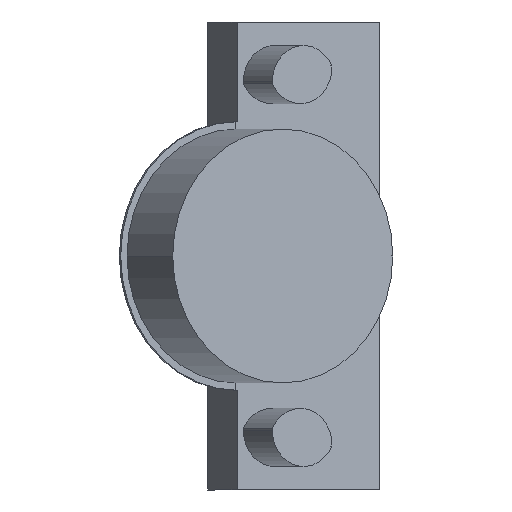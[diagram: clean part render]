
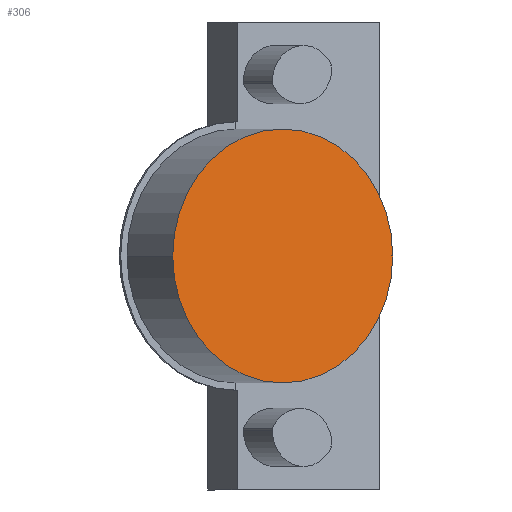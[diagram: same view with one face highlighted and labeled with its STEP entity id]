
A CAD part, front view. The second image highlights one B-rep face of the part: STEP entity #306.
In plain terms, the highlighted planar face has unit normal (0.5, -0.866, 0).
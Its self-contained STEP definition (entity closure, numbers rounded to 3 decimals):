
#98 = DIRECTION ( 'NONE',  ( 0.866, 0.5, 0. ) ) ;
#141 = AXIS2_PLACEMENT_3D ( 'NONE', #916, #165, #677 ) ;
#165 = DIRECTION ( 'NONE',  ( 0.5, -0.866, 0. ) ) ;
#306 = ADVANCED_FACE ( 'NONE', ( #1078 ), #729, .T. ) ;
#360 = DIRECTION ( 'NONE',  ( 0.866, 0.5, 0. ) ) ;
#421 = CARTESIAN_POINT ( 'NONE',  ( 27.205, -54.152, 0. ) ) ;
#570 = CIRCLE ( 'NONE', #141, 17.5 ) ;
#677 = DIRECTION ( 'NONE',  ( 0.866, 0.5, 0. ) ) ;
#729 = PLANE ( 'NONE',  #1538 ) ;
#916 = CARTESIAN_POINT ( 'NONE',  ( 12.05, -62.902, 0. ) ) ;
#920 = CARTESIAN_POINT ( 'NONE',  ( -3.105, -71.652, 0. ) ) ;
#950 = EDGE_CURVE ( 'NONE', #1371, #1343, #570, .T. ) ;
#984 = DIRECTION ( 'NONE',  ( 0.5, -0.866, 0. ) ) ;
#1078 = FACE_OUTER_BOUND ( 'NONE', #1194, .T. ) ;
#1091 = CIRCLE ( 'NONE', #1340, 17.5 ) ;
#1182 = ORIENTED_EDGE ( 'NONE', *, *, #950, .T. ) ;
#1194 = EDGE_LOOP ( 'NONE', ( #1182, #1255 ) ) ;
#1255 = ORIENTED_EDGE ( 'NONE', *, *, #1286, .T. ) ;
#1286 = EDGE_CURVE ( 'NONE', #1343, #1371, #1091, .T. ) ;
#1340 = AXIS2_PLACEMENT_3D ( 'NONE', #1503, #1376, #98 ) ;
#1343 = VERTEX_POINT ( 'NONE', #421 ) ;
#1371 = VERTEX_POINT ( 'NONE', #920 ) ;
#1376 = DIRECTION ( 'NONE',  ( 0.5, -0.866, 0. ) ) ;
#1503 = CARTESIAN_POINT ( 'NONE',  ( 12.05, -62.902, 0. ) ) ;
#1538 = AXIS2_PLACEMENT_3D ( 'NONE', #1599, #984, #360 ) ;
#1599 = CARTESIAN_POINT ( 'NONE',  ( 12.05, -62.902, 0. ) ) ;
